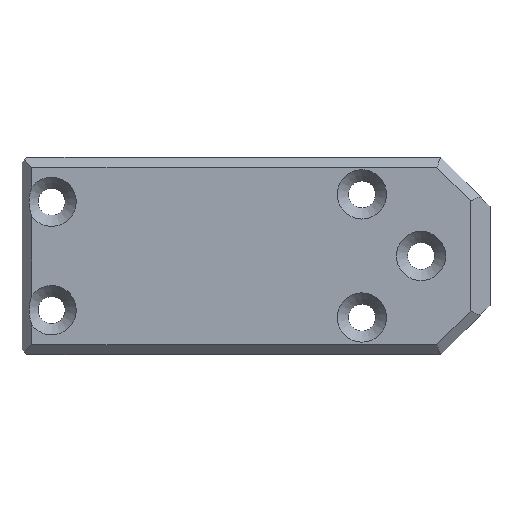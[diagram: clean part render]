
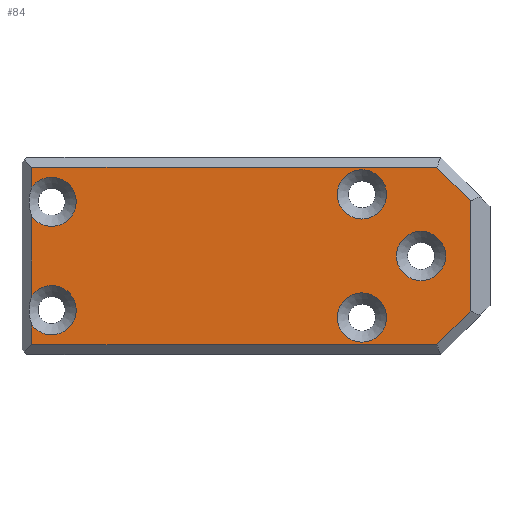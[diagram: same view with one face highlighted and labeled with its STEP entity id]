
A CAD part, top view. The second image highlights one B-rep face of the part: STEP entity #84.
In plain terms, the highlighted planar face has unit normal (0, 0, 1).
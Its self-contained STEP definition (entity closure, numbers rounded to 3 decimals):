
#84 = ADVANCED_FACE( '', ( #180, #181, #182, #183 ), #184, .T. );
#180 = FACE_BOUND( '', #289, .T. );
#181 = FACE_BOUND( '', #290, .T. );
#182 = FACE_BOUND( '', #291, .T. );
#183 = FACE_OUTER_BOUND( '', #292, .T. );
#184 = PLANE( '', #293 );
#289 = EDGE_LOOP( '', ( #479 ) );
#290 = EDGE_LOOP( '', ( #480 ) );
#291 = EDGE_LOOP( '', ( #481 ) );
#292 = EDGE_LOOP( '', ( #482, #483, #484, #485, #486, #487, #488, #489, #490, #491 ) );
#293 = AXIS2_PLACEMENT_3D( '', #492, #493, #494 );
#479 = ORIENTED_EDGE( '', *, *, #645, .T. );
#480 = ORIENTED_EDGE( '', *, *, #651, .T. );
#481 = ORIENTED_EDGE( '', *, *, #648, .T. );
#482 = ORIENTED_EDGE( '', *, *, #629, .T. );
#483 = ORIENTED_EDGE( '', *, *, #652, .T. );
#484 = ORIENTED_EDGE( '', *, *, #642, .T. );
#485 = ORIENTED_EDGE( '', *, *, #640, .T. );
#486 = ORIENTED_EDGE( '', *, *, #653, .T. );
#487 = ORIENTED_EDGE( '', *, *, #638, .T. );
#488 = ORIENTED_EDGE( '', *, *, #612, .T. );
#489 = ORIENTED_EDGE( '', *, *, #637, .T. );
#490 = ORIENTED_EDGE( '', *, *, #654, .T. );
#491 = ORIENTED_EDGE( '', *, *, #599, .T. );
#492 = CARTESIAN_POINT( '', ( -29.5, 20., 8. ) );
#493 = DIRECTION( '', ( 0., 0., 1. ) );
#494 = DIRECTION( '', ( 1., 0., 0. ) );
#599 = EDGE_CURVE( '', #704, #708, #710, .T. );
#612 = EDGE_CURVE( '', #731, #732, #733, .T. );
#629 = EDGE_CURVE( '', #708, #754, #756, .T. );
#637 = EDGE_CURVE( '', #732, #764, #766, .T. );
#638 = EDGE_CURVE( '', #767, #731, #768, .T. );
#640 = EDGE_CURVE( '', #761, #769, #771, .T. );
#642 = EDGE_CURVE( '', #773, #761, #774, .T. );
#645 = EDGE_CURVE( '', #777, #777, #778, .T. );
#648 = EDGE_CURVE( '', #782, #782, #783, .T. );
#651 = EDGE_CURVE( '', #787, #787, #788, .T. );
#652 = EDGE_CURVE( '', #754, #773, #789, .T. );
#653 = EDGE_CURVE( '', #769, #767, #790, .T. );
#654 = EDGE_CURVE( '', #764, #704, #791, .T. );
#704 = VERTEX_POINT( '', #858 );
#708 = VERTEX_POINT( '', #864 );
#710 = LINE( '', #867, #868 );
#731 = VERTEX_POINT( '', #894 );
#732 = VERTEX_POINT( '', #895 );
#733 = CIRCLE( '', #896, 5. );
#754 = VERTEX_POINT( '', #926 );
#756 = LINE( '', #929, #930 );
#761 = VERTEX_POINT( '', #937 );
#764 = VERTEX_POINT( '', #942 );
#766 = LINE( '', #945, #946 );
#767 = VERTEX_POINT( '', #947 );
#768 = LINE( '', #948, #949 );
#769 = VERTEX_POINT( '', #950 );
#771 = LINE( '', #952, #953 );
#773 = VERTEX_POINT( '', #955 );
#774 = LINE( '', #956, #957 );
#777 = VERTEX_POINT( '', #961 );
#778 = CIRCLE( '', #962, 5. );
#782 = VERTEX_POINT( '', #966 );
#783 = CIRCLE( '', #967, 5. );
#787 = VERTEX_POINT( '', #971 );
#788 = CIRCLE( '', #972, 5. );
#789 = LINE( '', #973, #974 );
#790 = CIRCLE( '', #975, 5. );
#791 = LINE( '', #976, #977 );
#858 = CARTESIAN_POINT( '', ( -40.328, -18., 8. ) );
#864 = CARTESIAN_POINT( '', ( -33.5, -11.172, 8. ) );
#867 = CARTESIAN_POINT( '', ( -15.914, 6.414, 8. ) );
#868 = VECTOR( '', #1016, 1000. );
#894 = CARTESIAN_POINT( '', ( -122.5, -8., 8. ) );
#895 = CARTESIAN_POINT( '', ( -122.5, -14., 8. ) );
#896 = AXIS2_PLACEMENT_3D( '', #1034, #1035, #1036 );
#926 = CARTESIAN_POINT( '', ( -33.5, 11.172, 8. ) );
#929 = CARTESIAN_POINT( '', ( -33.5, 10., 8. ) );
#930 = VECTOR( '', #1053, 1000. );
#937 = CARTESIAN_POINT( '', ( -122.5, 18., 8. ) );
#942 = CARTESIAN_POINT( '', ( -122.5, -18., 8. ) );
#945 = CARTESIAN_POINT( '', ( -122.5, -20., 8. ) );
#946 = VECTOR( '', #1059, 1000. );
#947 = CARTESIAN_POINT( '', ( -122.5, 8., 8. ) );
#948 = CARTESIAN_POINT( '', ( -122.5, -20., 8. ) );
#949 = VECTOR( '', #1060, 1000. );
#950 = CARTESIAN_POINT( '', ( -122.5, 14., 8. ) );
#952 = CARTESIAN_POINT( '', ( -122.5, -20., 8. ) );
#953 = VECTOR( '', #1064, 1000. );
#955 = CARTESIAN_POINT( '', ( -40.328, 18., 8. ) );
#956 = CARTESIAN_POINT( '', ( -124.5, 18., 8. ) );
#957 = VECTOR( '', #1065, 1000. );
#961 = CARTESIAN_POINT( '', ( -55.5, -7.5, 8. ) );
#962 = AXIS2_PLACEMENT_3D( '', #1067, #1068, #1069 );
#966 = CARTESIAN_POINT( '', ( -55.5, 17.5, 8. ) );
#967 = AXIS2_PLACEMENT_3D( '', #1073, #1074, #1075 );
#971 = CARTESIAN_POINT( '', ( -43.5, 5., 8. ) );
#972 = AXIS2_PLACEMENT_3D( '', #1079, #1080, #1081 );
#973 = CARTESIAN_POINT( '', ( -35.914, 13.586, 8. ) );
#974 = VECTOR( '', #1082, 1000. );
#975 = AXIS2_PLACEMENT_3D( '', #1083, #1084, #1085 );
#976 = CARTESIAN_POINT( '', ( -39.5, -18., 8. ) );
#977 = VECTOR( '', #1086, 1000. );
#1016 = DIRECTION( '', ( 0.707, 0.707, 0. ) );
#1034 = CARTESIAN_POINT( '', ( -118.5, -11., 8. ) );
#1035 = DIRECTION( '', ( 0., 0., -1. ) );
#1036 = DIRECTION( '', ( 0., 1., 0. ) );
#1053 = DIRECTION( '', ( 0., 1., 0. ) );
#1059 = DIRECTION( '', ( 0., -1., 0. ) );
#1060 = DIRECTION( '', ( 0., -1., 0. ) );
#1064 = DIRECTION( '', ( 0., -1., 0. ) );
#1065 = DIRECTION( '', ( -1., 0., 0. ) );
#1067 = CARTESIAN_POINT( '', ( -55.5, -12.5, 8. ) );
#1068 = DIRECTION( '', ( 0., 0., -1. ) );
#1069 = DIRECTION( '', ( 0., 1., 0. ) );
#1073 = CARTESIAN_POINT( '', ( -55.5, 12.5, 8. ) );
#1074 = DIRECTION( '', ( 0., 0., -1. ) );
#1075 = DIRECTION( '', ( 0., 1., 0. ) );
#1079 = CARTESIAN_POINT( '', ( -43.5, 0., 8. ) );
#1080 = DIRECTION( '', ( 0., 0., -1. ) );
#1081 = DIRECTION( '', ( 0., 1., 0. ) );
#1082 = DIRECTION( '', ( -0.707, 0.707, 0. ) );
#1083 = CARTESIAN_POINT( '', ( -118.5, 11., 8. ) );
#1084 = DIRECTION( '', ( 0., 0., -1. ) );
#1085 = DIRECTION( '', ( 0., 1., 0. ) );
#1086 = DIRECTION( '', ( 1., 0., 0. ) );
